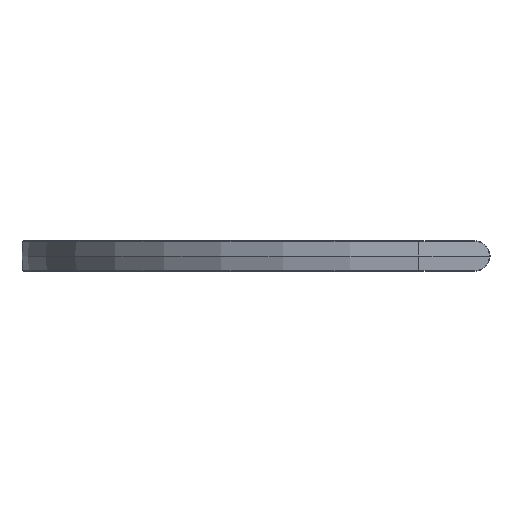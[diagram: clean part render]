
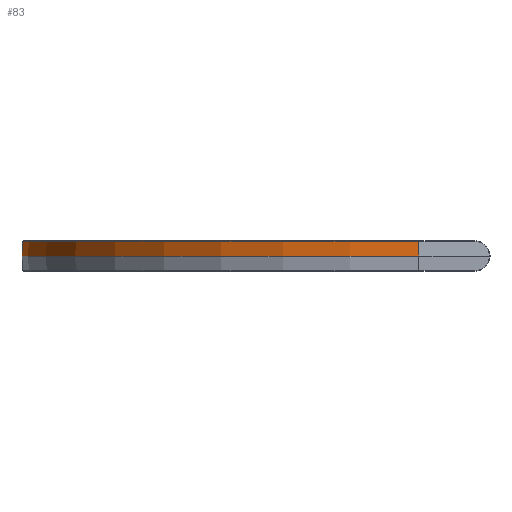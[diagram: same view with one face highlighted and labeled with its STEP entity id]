
A CAD part, left-side view. The second image highlights one B-rep face of the part: STEP entity #83.
In plain terms, the highlighted conical face has half-angle 3.5 degrees and reference radius 116.732 mm.
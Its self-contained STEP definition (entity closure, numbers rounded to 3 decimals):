
#83=ADVANCED_FACE('',(#1377),#1379,.T.);
#1377=FACE_BOUND('',#1378,.T.);
#1378=EDGE_LOOP('',(#3461,#3462,#3463,#3464));
#1379=CONICAL_SURFACE('',#1380,116.732,0.061);
#1380=AXIS2_PLACEMENT_3D('',#1381,#1382,#1383);
#1381=CARTESIAN_POINT('',(0.,0.,2.156));
#1382=DIRECTION('',(0.,0.,-1.));
#1383=DIRECTION('',(-1.,0.,0.));
#3461=ORIENTED_EDGE('',*,*,#4469,.F.);
#3462=ORIENTED_EDGE('',*,*,#4466,.F.);
#3463=ORIENTED_EDGE('',*,*,#4470,.T.);
#3464=ORIENTED_EDGE('',*,*,#4471,.T.);
#4466=EDGE_CURVE('',#5121,#5123,#5124,.T.);
#4469=EDGE_CURVE('',#5123,#5128,#5129,.T.);
#4470=EDGE_CURVE('',#5121,#5130,#5131,.T.);
#4471=EDGE_CURVE('',#5130,#5128,#5132,.T.);
#5121=VERTEX_POINT('',#6537);
#5123=VERTEX_POINT('',#6541);
#5124=LINE('',#6542,#6543);
#5128=VERTEX_POINT('',#6553);
#5129=CIRCLE('',#6554,116.6);
#5130=VERTEX_POINT('',#6558);
#5131=CIRCLE('',#6559,116.863);
#5132=LINE('',#6563,#6564);
#6537=CARTESIAN_POINT('',(116.863,0.,0.));
#6541=CARTESIAN_POINT('',(116.6,0.,4.312));
#6542=CARTESIAN_POINT('',(116.863,0.,0.));
#6543=VECTOR('',#6544,1.);
#6544=DIRECTION('',(-0.061,0.,0.998));
#6553=CARTESIAN_POINT('',(-116.6,0.,4.312));
#6554=AXIS2_PLACEMENT_3D('',#6555,#6556,#6557);
#6555=CARTESIAN_POINT('',(0.,0.,4.312));
#6556=DIRECTION('',(0.,0.,1.));
#6557=DIRECTION('',(1.,0.,0.));
#6558=CARTESIAN_POINT('',(-116.863,0.,0.));
#6559=AXIS2_PLACEMENT_3D('',#6560,#6561,#6562);
#6560=CARTESIAN_POINT('',(0.,0.,0.));
#6561=DIRECTION('',(0.,0.,1.));
#6562=DIRECTION('',(1.,0.,0.));
#6563=CARTESIAN_POINT('',(-116.863,0.,0.));
#6564=VECTOR('',#6565,1.);
#6565=DIRECTION('',(0.061,0.,0.998));
